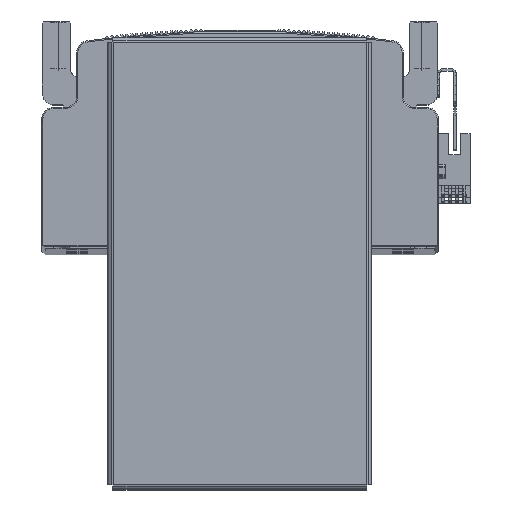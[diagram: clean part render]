
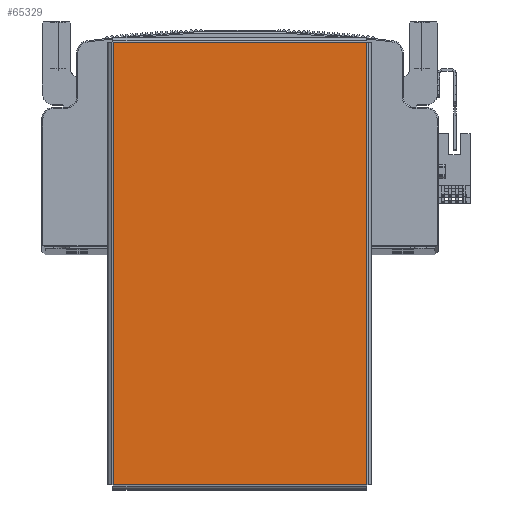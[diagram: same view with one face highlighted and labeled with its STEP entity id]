
A CAD part, top view. The second image highlights one B-rep face of the part: STEP entity #65329.
In plain terms, the highlighted planar face has unit normal (0, 0, 1) as drawn and (0, -1, 0) by its records, which use the part's own axes.
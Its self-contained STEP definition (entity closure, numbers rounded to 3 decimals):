
#145 = EDGE_LOOP ( 'NONE', ( #52261, #52257, #52264, #15338 ) ) ;
#5653 = EDGE_CURVE ( 'NONE', #11246, #11262, #24990, .T. ) ;
#5660 = EDGE_CURVE ( 'NONE', #11240, #11210, #24947, .T. ) ;
#5683 = EDGE_CURVE ( 'NONE', #11210, #11246, #24989, .T. ) ;
#5699 = EDGE_CURVE ( 'NONE', #11262, #11240, #25007, .T. ) ;
#11210 = VERTEX_POINT ( 'NONE', #63766 ) ;
#11240 = VERTEX_POINT ( 'NONE', #63821 ) ;
#11246 = VERTEX_POINT ( 'NONE', #63872 ) ;
#11262 = VERTEX_POINT ( 'NONE', #63841 ) ;
#15338 = ORIENTED_EDGE ( 'NONE', *, *, #5683, .T. ) ;
#23362 = CARTESIAN_POINT ( 'NONE',  ( 94.793, -1.5, 54.363 ) ) ;
#23388 = DIRECTION ( 'NONE',  ( -1., 0., 0. ) ) ;
#24935 = VECTOR ( 'NONE', #26765, 1000. ) ;
#24947 = LINE ( 'NONE', #26713, #24984 ) ;
#24981 = VECTOR ( 'NONE', #23388, 1000. ) ;
#24984 = VECTOR ( 'NONE', #26672, 1000. ) ;
#24989 = LINE ( 'NONE', #26790, #24935 ) ;
#24990 = LINE ( 'NONE', #23362, #24981 ) ;
#24997 = VECTOR ( 'NONE', #26898, 1000. ) ;
#25007 = LINE ( 'NONE', #26889, #24997 ) ;
#26672 = DIRECTION ( 'NONE',  ( 1., 0., 0. ) ) ;
#26713 = CARTESIAN_POINT ( 'NONE',  ( -94.793, -1.5, -54.363 ) ) ;
#26765 = DIRECTION ( 'NONE',  ( 0., 0., 1. ) ) ;
#26790 = CARTESIAN_POINT ( 'NONE',  ( 94.763, -1.5, -54.393 ) ) ;
#26889 = CARTESIAN_POINT ( 'NONE',  ( -94.763, -1.5, 54.393 ) ) ;
#26898 = DIRECTION ( 'NONE',  ( 0., 0., -1. ) ) ;
#36045 = FACE_OUTER_BOUND ( 'NONE', #145, .T. ) ;
#39101 = AXIS2_PLACEMENT_3D ( 'NONE', #41388, #41364, #41378 ) ;
#41363 = PLANE ( 'NONE',  #39101 ) ;
#41364 = DIRECTION ( 'NONE',  ( 0., 1., 0. ) ) ;
#41378 = DIRECTION ( 'NONE',  ( 0., 0., 1. ) ) ;
#41388 = CARTESIAN_POINT ( 'NONE',  ( 0., -1.5, 0. ) ) ;
#52257 = ORIENTED_EDGE ( 'NONE', *, *, #5699, .T. ) ;
#52261 = ORIENTED_EDGE ( 'NONE', *, *, #5653, .T. ) ;
#52264 = ORIENTED_EDGE ( 'NONE', *, *, #5660, .T. ) ;
#63766 = CARTESIAN_POINT ( 'NONE',  ( 94.763, -1.5, -54.363 ) ) ;
#63821 = CARTESIAN_POINT ( 'NONE',  ( -94.763, -1.5, -54.363 ) ) ;
#63841 = CARTESIAN_POINT ( 'NONE',  ( -94.763, -1.5, 54.363 ) ) ;
#63872 = CARTESIAN_POINT ( 'NONE',  ( 94.763, -1.5, 54.363 ) ) ;
#65329 = ADVANCED_FACE ( 'NONE', ( #36045 ), #41363, .F. ) ;
